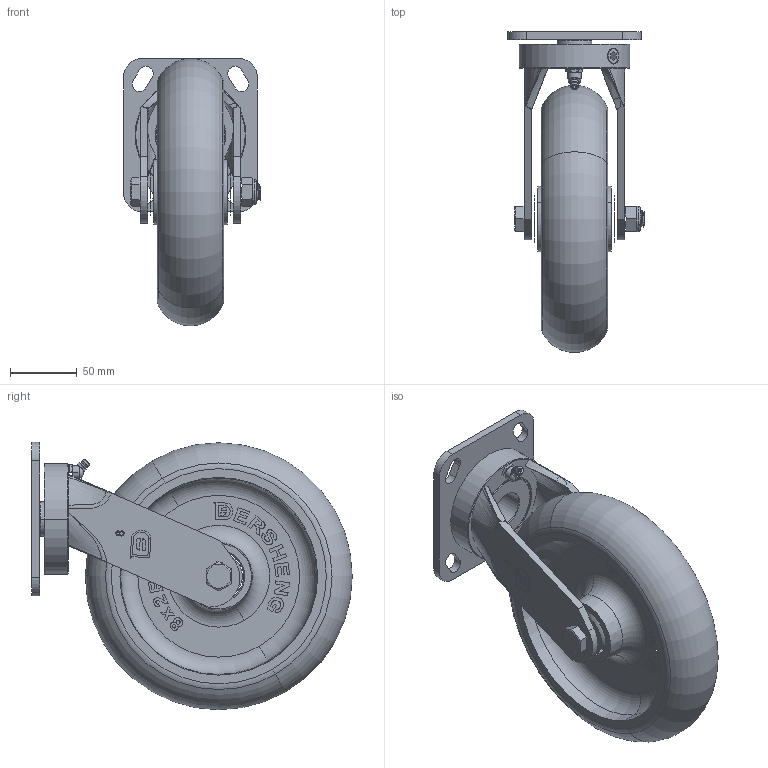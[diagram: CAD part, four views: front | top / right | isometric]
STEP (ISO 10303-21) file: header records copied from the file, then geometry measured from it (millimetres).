
FILE_DESCRIPTION((''),'2;1');
FILE_NAME('PRT0007','2025-06-04T11:51:33',('Administrator'),(''),'CREO PARAMETRIC BY PTC INC, 2022124','CREO PARAMETRIC BY PTC INC, 2022124','');
FILE_SCHEMA(('AP203_CONFIGURATION_CONTROLLED_3D_DESIGN_OF_MECHANICAL_PARTS_AND_ASSEMBLIES_MIM_LF { 1 0 10303 403 2 1 2 }'));
Length unit declared in the file: millimetre
Products named in the file (1): PRT0007
Bounding box: 102.3 x 239.9 x 200.2 mm (x, y, z)
Surface area: 167820 mm2 (no closed solid volume)
Topology: 0 solids, 45 shells, 239 faces, 1319 edges, 1127 vertices
Faces by surface type: plane 117, cone 35, bspline 33, cylinder 25, torus 18, extrusion 11
Entity records: 26415 total; most frequent: CARTESIAN_POINT 15284, ORIENTED_EDGE 1723, DIRECTION 1564, EDGE_CURVE 1319, VERTEX_POINT 1127, VECTOR 689, LINE 678, AXIS2_PLACEMENT_3D 436
